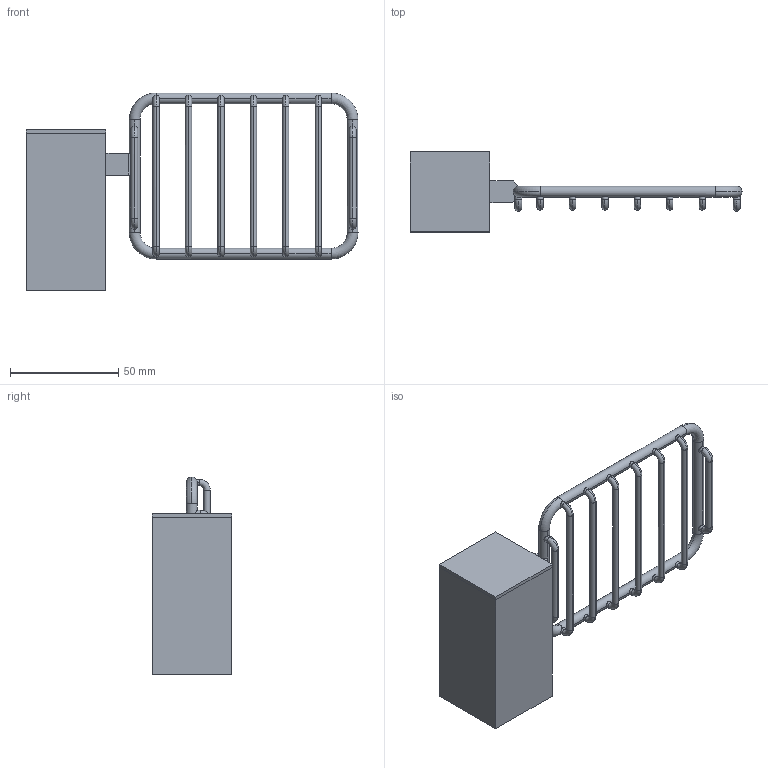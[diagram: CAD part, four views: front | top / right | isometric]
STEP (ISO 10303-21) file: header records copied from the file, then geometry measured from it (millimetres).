
FILE_DESCRIPTION (( 'STEP AP203' ), '1' );
FILE_NAME ('12126310.STEP', '2022-09-28T16:20:39', ( '' ), ( '' ), 'SwSTEP 2.0', 'SolidWorks 2018', '' );
FILE_SCHEMA (( 'CONFIG_CONTROL_DESIGN' ));
Length unit declared in the file: millimetre
Products named in the file (1): 12126310
Bounding box: 153.6 x 37 x 91.55 mm (x, y, z)
Surface area: 24568.2 mm2 (no closed solid volume)
Topology: 0 solids, 2 shells, 121 faces, 353 edges, 217 vertices
Faces by surface type: cylinder 57, torus 40, plane 24
Entity records: 6873 total; most frequent: CARTESIAN_POINT 4294, ORIENTED_EDGE 698, EDGE_CURVE 353, B_SPLINE_CURVE_WITH_KNOTS 341, DIRECTION 256, VERTEX_POINT 217, AXIS2_PLACEMENT_3D 122, EDGE_LOOP 122
